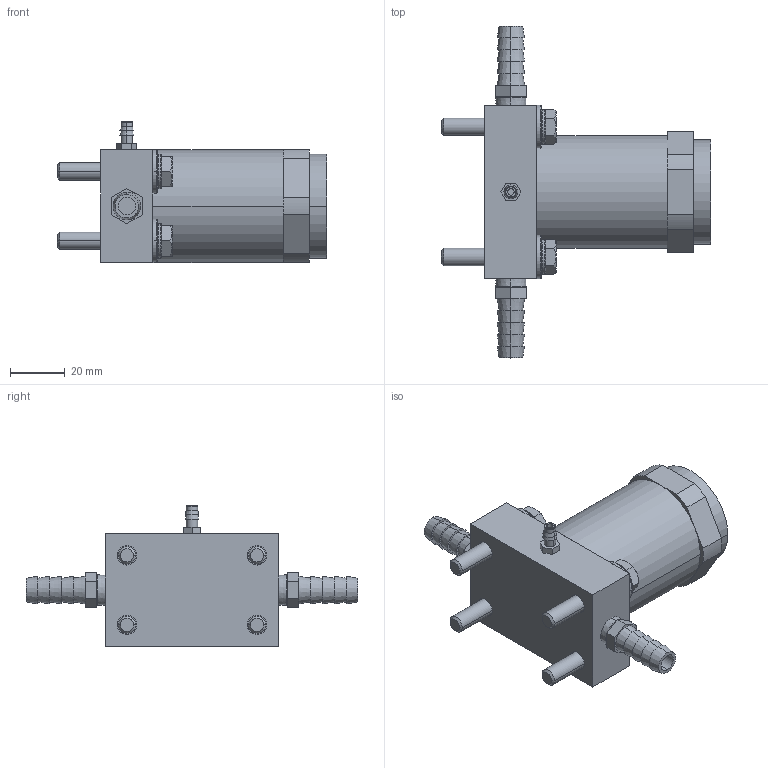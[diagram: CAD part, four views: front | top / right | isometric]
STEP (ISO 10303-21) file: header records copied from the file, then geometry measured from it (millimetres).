
FILE_DESCRIPTION((''),'2;1');
FILE_NAME('UA4_ASM','2017-08-22T',('jennifer.elliott'),('CenterLine (Windsor) Ltd - Automation Components Division'),'PRO/ENGINEER BY PARAMETRIC TECHNOLOGY CORPORATION, 2015030','PRO/ENGINEER BY PARAMETRIC TECHNOLOGY CORPORATION, 2015030','');
FILE_SCHEMA(('AUTOMOTIVE_DESIGN { 1 0 10303 214 1 1 1 1 }'));
Length unit declared in the file: inch
Products named in the file (17): PRT0016; PRT0017; PRT0018; PRT0019; PRT0020; PRT0021; PRT0022; PRT0023; PRT0024; PRT0025; PRT0026; ASM0002_ASM; PRT0027; PRT0028; PRT0029; PRT0030; UA4_ASM
Assembly tree (16 placements, depth 3):
  UA4_ASM
    PRT0016
    PRT0017
    PRT0018
    PRT0019
    PRT0020
    PRT0021
    PRT0022
    ASM0002_ASM
      PRT0023
      PRT0024
      PRT0025
      PRT0026
    PRT0027
    PRT0028
    PRT0029
    PRT0030
Bounding box: 98.42 x 121.41 x 51.59 mm (x, y, z)
Volume: 142368.4 mm3; surface area: 37140.6 mm2
Topology: 15 solids, 15 shells, 263 faces, 622 edges, 410 vertices
Faces by surface type: plane 115, cylinder 60, cone 60, torus 28
Entity records: 9080 total; most frequent: CARTESIAN_POINT 1830, DIRECTION 1428, ORIENTED_EDGE 1244, EDGE_CURVE 622, AXIS2_PLACEMENT_3D 594, VERTEX_POINT 410, EDGE_LOOP 306, CIRCLE 294
